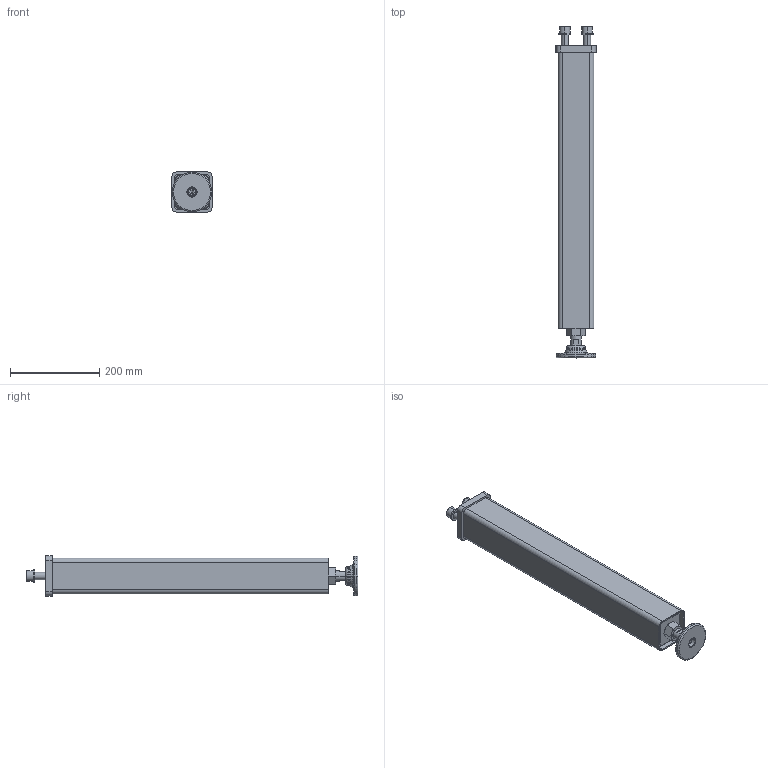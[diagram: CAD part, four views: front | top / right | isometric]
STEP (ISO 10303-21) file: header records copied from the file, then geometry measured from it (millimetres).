
FILE_DESCRIPTION (( 'STEP AP214' ), '1' );
FILE_NAME ('220858.STEP', '2020-04-02T07:31:21', ( '' ), ( '' ), 'SwSTEP 2.0', 'SolidWorks 2019', '' );
FILE_SCHEMA (( 'AUTOMOTIVE_DESIGN' ));
Length unit declared in the file: millimetre
Products named in the file (12): ISO 4762 - M16 x 50 - verzinkt_0; ISO 8673 M24x1,5-verzinkt_0; 220858 Schweißteil; Fussteller^280855.X.1 Fußteller mit Spindel; M 24x1,5 Spindel 100^280855.X.1 Fußteller mit Spindel_ohne gew; 220858; Gewindeaufnahme^220858 Schweißteil; Federring DIN 127 B - 16 - verzinkt; 280855.X.1 Fußteller mit Spindel_Einfach; 220858 Schweißteil^220858 Schweißteil_Standard<Wie bearbeitet>; Platte oben^220858 Schweißteil; ISO 4762 - M12 x 25 - verzinkt_0
Assembly tree (13 placements, depth 3):
  220858
    220858 Schweißteil
      220858 Schweißteil^220858 Schweißteil_Standard<Wie bearbeitet>
      Platte oben^220858 Schweißteil
      Gewindeaufnahme^220858 Schweißteil
    280855.X.1 Fußteller mit Spindel_Einfach
      M 24x1,5 Spindel 100^280855.X.1 Fußteller mit Spindel_ohne gew
      Fussteller^280855.X.1 Fußteller mit Spindel
      ISO 4762 - M12 x 25 - verzinkt_0
    ISO 4762 - M16 x 50 - verzinkt_0  x2
    Federring DIN 127 B - 16 - verzinkt  x2
    ISO 8673 M24x1,5-verzinkt_0
Bounding box: 90 x 744.5 x 90 mm (x, y, z)
Volume: 946934.5 mm3; surface area: 451075.7 mm2
Topology: 11 solids, 11 shells, 217 faces, 487 edges, 292 vertices
Faces by surface type: plane 92, cylinder 54, cone 47, torus 24
Entity records: 5741 total; most frequent: CARTESIAN_POINT 1046, DIRECTION 979, ORIENTED_EDGE 822, EDGE_CURVE 411, AXIS2_PLACEMENT_3D 388, VERTEX_POINT 251, EDGE_LOOP 204, VECTOR 203
